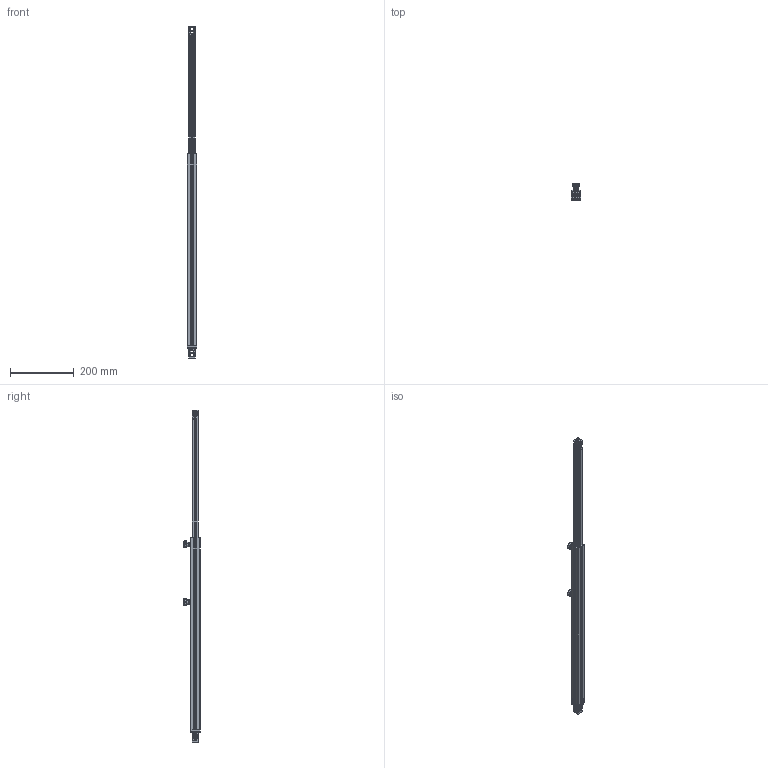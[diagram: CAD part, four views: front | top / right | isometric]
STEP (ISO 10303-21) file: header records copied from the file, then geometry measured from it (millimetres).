
FILE_DESCRIPTION (( 'STEP AP214' ), '1' );
FILE_NAME ('TSB-2020-638(+370).STEP', '2023-12-05T09:06:35', ( '' ), ( '' ), 'SwSTEP 2.0', 'SolidWorks 2022', '' );
FILE_SCHEMA (( 'AUTOMOTIVE_DESIGN' ));
Length unit declared in the file: millimetre
Products named in the file (18): Винт-пот.-шестигр.-ГОСТ-Р-ИСО-10642-2012-DIN-7991_М5x8; Винт полусфера ISO 7380 (для рендеров)_М6х20; Гайка M6-6H ГОСТ 5915-70_С резьбой; 2113-3; Пластина для телескопического профиля2_Без отверстий; Винт с внутренним шестигранником ISO 4762_М4х20; 5079; 2113-1; OB-2020 Профиль 20х20 мм, паз 6 мм (Анодированный)_L=590 мм; TS-3030-2020 Профиль телескопический 30х30 (Анодированный)_L=600 мм; 2113_Зафиксирован; D21M6H15 Part 1; 2113-2; D21M6H15 Part 2; TS-3030-Connector; D21M6H15; Пластина для телескопического профиля1; TSB-2020-638(+370)
Assembly tree (32 placements, depth 3):
  TSB-2020-638(+370)
    TS-3030-2020 Профиль телескопический 30х30 (Анодированный)_L=600 мм
    OB-2020 Профиль 20х20 мм, паз 6 мм (Анодированный)_L=590 мм
    2113_Зафиксирован  x2
      2113-1
      2113-2
      Винт-пот.-шестигр.-ГОСТ-Р-ИСО-10642-2012-DIN-7991_М5x8
    TS-3030-Connector
      Пластина для телескопического профиля1
      Пластина для телескопического профиля2_Без отверстий
      Гайка M6-6H ГОСТ 5915-70_С резьбой
    Винт полусфера ISO 7380 (для рендеров)_М6х20  x2
    Винт с внутренним шестигранником ISO 4762_М4х20  x4
    5079  x2
    D21M6H15  x2
      D21M6H15 Part 1
      D21M6H15 Part 2
    2113-3  x6
Bounding box: 30 x 50.4 x 1038.4 mm (x, y, z)
Volume: 380306.3 mm3; surface area: 293940.5 mm2
Topology: 87 solids, 87 shells, 2448 faces, 6344 edges, 4116 vertices
Faces by surface type: plane 986, cylinder 977, bspline 255, cone 118, torus 108, sphere 4
Entity records: 66089 total; most frequent: CARTESIAN_POINT 37641, ORIENTED_EDGE 5656, DIRECTION 4840, EDGE_CURVE 2828, VERTEX_POINT 1843, AXIS2_PLACEMENT_3D 1702, VECTOR 1436, LINE 1436
